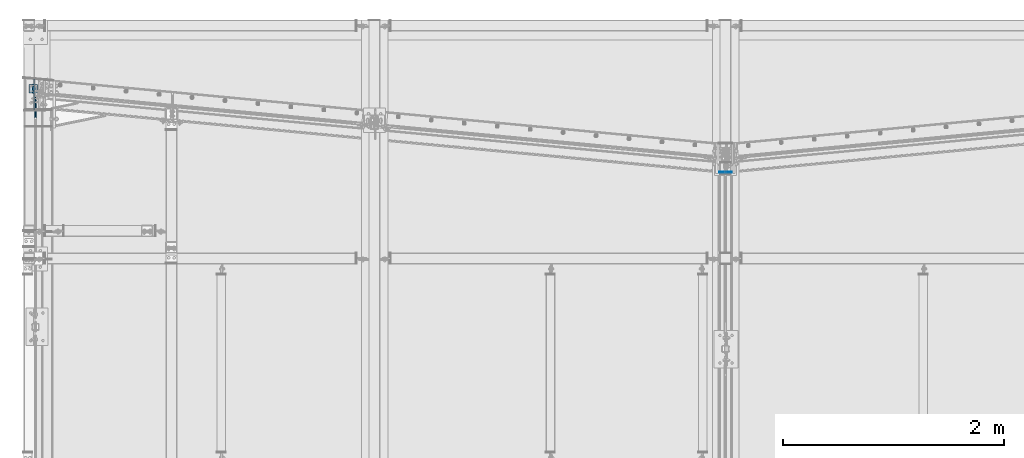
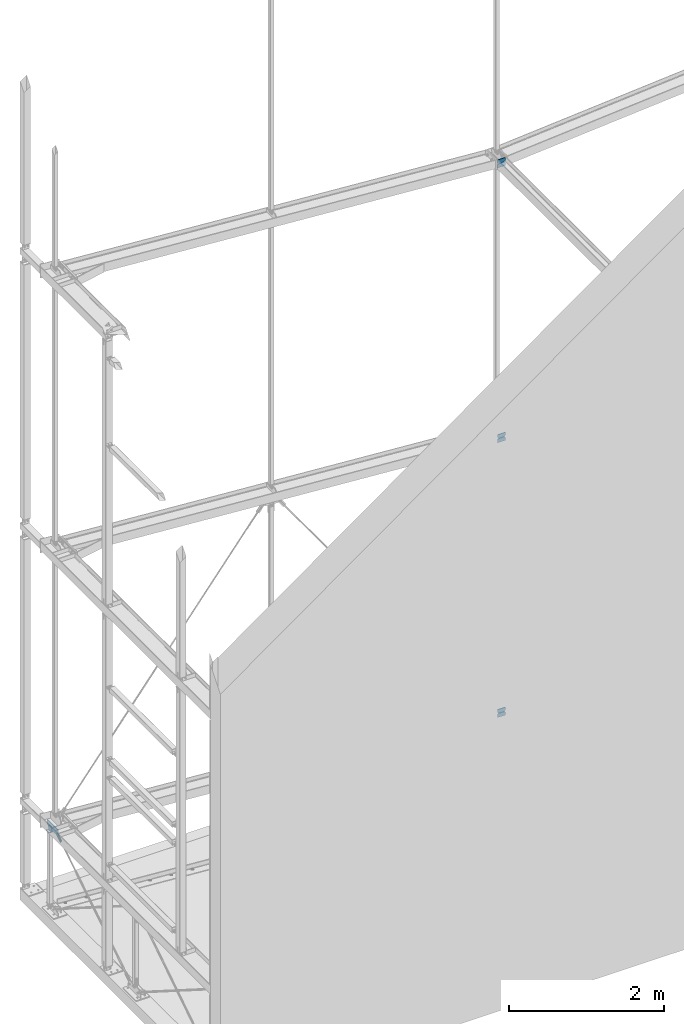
# One storey, part 136 of 271: 10 plates, 6 elements without a shape of their own.
"""IFC2X3 building model written with IfcOpenShell, lengths in millimetres."""

from ifc_helpers import new_model, si_unit, frame, origin_with_axes, place, context, subcontext, project, spatial, polyline, outline, extrude, material, type_object, element, aggregate, save


model = new_model("IFC2X3")

# Units and contexts
model_context = context("Model", 3, precision=1e-05, world=origin_with_axes())
body_context = subcontext(model_context, "Body", "Model", "MODEL_VIEW")
ifc_project = project(units=[si_unit("LENGTHUNIT", "METRE", prefix="MILLI"), si_unit("AREAUNIT", "SQUARE_METRE"), si_unit("VOLUMEUNIT", "CUBIC_METRE"), si_unit("MASSUNIT", "GRAM", prefix="KILO"), si_unit("TIMEUNIT", "SECOND"), si_unit("PLANEANGLEUNIT", "RADIAN"), si_unit("SOLIDANGLEUNIT", "STERADIAN"), si_unit("THERMODYNAMICTEMPERATUREUNIT", "DEGREE_CELSIUS"), si_unit("LUMINOUSINTENSITYUNIT", "LUMEN")], contexts=[model_context])

# Site, building, storey
site_placement = place(None, origin_with_axes())
site = spatial("IfcSite", under=ifc_project, at=site_placement, Name="Undefined", CompositionType="ELEMENT")
building_placement = place(site_placement, origin_with_axes())
building = spatial("IfcBuilding", under=site, at=building_placement, Name="Undefined", CompositionType="ELEMENT")
storey_placement = place(building_placement, origin_with_axes())
storey = spatial("IfcBuildingStorey", under=building, at=storey_placement, Name="Undefined", CompositionType="ELEMENT", Elevation=0.0)

# Assembly, plate
assembly_1_placement = place(storey_placement, origin_with_axes())
assembly_1 = element("IfcElementAssembly", 1, at=assembly_1_placement, inside=storey, AssemblyPlace="NOTDEFINED", PredefinedType="RIGID_FRAME")
ifc_material = material(Name="STEEL/S355JR")
plate_type_1 = type_object("IfcPlateType", Name="BL12*56", PredefinedType="NOTDEFINED")
plate_1_placement = place(assembly_1_placement, frame((98.9999999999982, 4256.58381154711, 1277.27503788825), z_axis=(1.0, 0.0, 0.0), x_axis=(0.0, 0.219920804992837, 0.975517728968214)))
plate_1 = element("IfcPlate", 2, at=plate_1_placement, type_object=plate_type_1, material=ifc_material, Name="BLACHA", ObjectType="BL12*56", context=body_context, shape_type="SweptSolid", body=[
    extrude(outline(polyline([(0.0, 0.0), (21.2132034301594, 1.09139364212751e-11), (39.5979804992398, 18.3847751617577), (39.5979804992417, 39.5979804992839), (-86.9741363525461, 166.170089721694), (-100.762718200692, 152.381515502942), (-30.0520401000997, 81.670829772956), (-42.0728530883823, 69.6500167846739), (-112.783531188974, 140.36070251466), (-126.57211303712, 126.57211303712), (0.0, 0.0)])), frame((0.0, 0.0, -6.0), z_axis=(0.0, 0.0, 1.0), x_axis=(1.0, 0.0, 0.0)), (0.0, 0.0, 1.0), 12.0),
])
aggregate(assembly_1, [plate_1])

assembly_2_placement = place(storey_placement, origin_with_axes())
assembly_2 = element("IfcElementAssembly", 3, at=assembly_2_placement, inside=storey, AssemblyPlace="NOTDEFINED", PredefinedType="RIGID_FRAME")
plate_type_2 = type_object("IfcPlateType", Name="BL10*70", PredefinedType="NOTDEFINED")
plate_2_placement = place(assembly_2_placement, frame((77.9999996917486, 4297.19355050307, 1296.04999995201), z_axis=(-1.0, 0.0, 1.38777878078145e-17), x_axis=(0.0, 0.707106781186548, 0.707106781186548)))
plate_2 = element("IfcPlate", 4, at=plate_2_placement, type_object=plate_type_2, material=ifc_material, Name="BLACHA", ObjectType="BL10*70", context=body_context, shape_type="SweptSolid", body=[
    extrude(outline(polyline([(0.0, 0.0), (21.2132034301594, 1.09139364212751e-11), (56.5685424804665, 35.3553390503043), (56.568542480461, 56.5685424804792), (17.6776695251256, 95.4594192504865), (-38.890872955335, 38.8908729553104), (0.0, 0.0)])), frame((0.0, 0.0, -5.0), z_axis=(0.0, 0.0, 1.0), x_axis=(1.0, 0.0, 0.0)), (0.0, 0.0, 1.0), 10.0),
])

assembly_3_placement = place(storey_placement, origin_with_axes())
assembly_3 = element("IfcElementAssembly", 5, at=assembly_3_placement, inside=storey, AssemblyPlace="NOTDEFINED", PredefinedType="RIGID_FRAME")
plate_type_3 = type_object("IfcPlateType", Name="BL10*100", PredefinedType="NOTDEFINED")
plate_3_placement = place(assembly_3_placement, frame((87.9999996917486, 4424.19355050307, 1360.69999980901), z_axis=(1.0, 0.0, 0.0), x_axis=(0.0, -1.0, 0.0)))
plate_3 = element("IfcPlate", 6, at=plate_3_placement, type_object=plate_type_3, material=ifc_material, Name="BLACHA", ObjectType="BL10*100", context=body_context, shape_type="SweptSolid", body=[
    extrude(outline(polyline([(0.0, 0.0), (280.0, 0.0), (280.0, 60.0), (200.0, 100.0), (40.0, 100.0), (0.0, 70.0), (0.0, 0.0)])), frame((0.0, 0.0, -5.0), z_axis=(0.0, 0.0, 1.0), x_axis=(1.0, 0.0, 0.0)), (0.0, 0.0, 1.0), 10.0),
])
aggregate(assembly_3, [plate_3])

# Plate
plate_type_4 = type_object("IfcPlateType", Name="BL8*80", PredefinedType="NOTDEFINED")
plate_4_placement = place(assembly_2_placement, frame((117.999999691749, 4297.19355050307, 1237.04999995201), z_axis=(0.0, 0.0, 1.0), x_axis=(0.0, 1.0, 0.0)))
plate_4 = element("IfcPlate", 7, at=plate_4_placement, type_object=plate_type_4, material=ifc_material, Name="BLACHA", ObjectType="BL8*80", context=body_context, shape_type="SweptSolid", body=[
    extrude(outline(polyline([(0.0, 0.0), (80.0, 0.0), (80.0, 80.0), (0.0, 80.0), (0.0, 0.0)])), frame((0.0, 0.0, -4.0), z_axis=(0.0, 0.0, 1.0), x_axis=(1.0, 0.0, 0.0)), (0.0, 0.0, 1.0), 8.0),
])

aggregate(assembly_2, [plate_4, plate_2])

# Assembly, plates
assembly_4_placement = place(storey_placement, origin_with_axes())
assembly_4 = element("IfcElementAssembly", 8, at=assembly_4_placement, inside=storey, AssemblyPlace="NOTDEFINED", PredefinedType="RIGID_FRAME")
plate_type_5 = type_object("IfcPlateType", Name="BL8*60", PredefinedType="NOTDEFINED")
plate_5_placement = place(assembly_4_placement, frame((6291.37568709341, 3579.5985668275, 5621.59999990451), z_axis=(0.0, 1.0, 0.0), x_axis=(0.0, 0.0, 1.0)))
plate_5 = element("IfcPlate", 9, at=plate_5_placement, type_object=plate_type_5, material=ifc_material, Name="BLACHA", ObjectType="BL8*60", context=body_context, shape_type="SweptSolid", body=[
    extrude(outline(polyline([(0.0, 0.0), (45.0, 0.0), (60.0, 15.0), (60.0, 99.0), (45.0, 114.0), (0.0, 114.0), (0.0, 0.0)])), frame((0.0, 0.0, -4.0), z_axis=(0.0, 0.0, 1.0), x_axis=(1.0, 0.0, 0.0)), (0.0, 0.0, 1.0), 8.0),
])
plate_6_placement = place(assembly_4_placement, frame((6291.37568709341, 3579.5985668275, 5747.09999990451), z_axis=(0.0, -1.0, 0.0), x_axis=(0.0, 0.0, -1.0)))
plate_6 = element("IfcPlate", 10, at=plate_6_placement, type_object=plate_type_5, material=ifc_material, Name="BLACHA", ObjectType="BL8*60", context=body_context, shape_type="SweptSolid", body=[
    extrude(outline(polyline([(0.0, 0.0), (45.0, 0.0), (60.0, 15.0), (60.0, 99.0), (45.0, 114.0), (0.0, 114.0), (0.0, 0.0)])), frame((0.0, 0.0, -4.0), z_axis=(0.0, 0.0, 1.0), x_axis=(1.0, 0.0, 0.0)), (0.0, 0.0, 1.0), 8.0),
])
aggregate(assembly_4, [plate_5, plate_6])

assembly_5_placement = place(storey_placement, origin_with_axes())
assembly_5 = element("IfcElementAssembly", 11, at=assembly_5_placement, inside=storey, AssemblyPlace="NOTDEFINED", PredefinedType="RIGID_FRAME")
plate_7_placement = place(assembly_5_placement, frame((6291.37568709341, 3579.5985668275, 1301.59999990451), z_axis=(0.0, 1.0, 0.0), x_axis=(0.0, 0.0, 1.0)))
plate_7 = element("IfcPlate", 12, at=plate_7_placement, type_object=plate_type_5, material=ifc_material, Name="BLACHA", ObjectType="BL8*60", context=body_context, shape_type="SweptSolid", body=[
    extrude(outline(polyline([(0.0, 0.0), (45.0, 0.0), (60.0, 15.0), (60.0, 99.0), (45.0, 114.0), (0.0, 114.0), (0.0, 0.0)])), frame((0.0, 0.0, -4.0), z_axis=(0.0, 0.0, 1.0), x_axis=(1.0, 0.0, 0.0)), (0.0, 0.0, 1.0), 8.0),
])
plate_8_placement = place(assembly_5_placement, frame((6291.37568709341, 3579.5985668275, 1427.09999990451), z_axis=(0.0, -1.0, 0.0), x_axis=(0.0, 0.0, -1.0)))
plate_8 = element("IfcPlate", 13, at=plate_8_placement, type_object=plate_type_5, material=ifc_material, Name="BLACHA", ObjectType="BL8*60", context=body_context, shape_type="SweptSolid", body=[
    extrude(outline(polyline([(0.0, 0.0), (45.0, 0.0), (60.0, 15.0), (60.0, 99.0), (45.0, 114.0), (0.0, 114.0), (0.0, 0.0)])), frame((0.0, 0.0, -4.0), z_axis=(0.0, 0.0, 1.0), x_axis=(1.0, 0.0, 0.0)), (0.0, 0.0, 1.0), 8.0),
])
aggregate(assembly_5, [plate_7, plate_8])

assembly_6_placement = place(storey_placement, origin_with_axes())
assembly_6 = element("IfcElementAssembly", 14, at=assembly_6_placement, inside=storey, AssemblyPlace="NOTDEFINED", PredefinedType="RIGID_FRAME")
plate_9_placement = place(assembly_6_placement, frame((6291.37568709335, 3579.59856682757, 9941.59999990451), z_axis=(0.0, 1.0, 0.0), x_axis=(0.0, 0.0, 1.0)))
plate_9 = element("IfcPlate", 15, at=plate_9_placement, type_object=plate_type_5, material=ifc_material, Name="BLACHA", ObjectType="BL8*60", context=body_context, shape_type="SweptSolid", body=[
    extrude(outline(polyline([(0.0, 0.0), (45.0, 0.0), (60.0, 15.0), (60.0, 99.0), (45.0, 114.0), (0.0, 114.0), (0.0, 0.0)])), frame((0.0, 0.0, -4.0), z_axis=(0.0, 0.0, 1.0), x_axis=(1.0, 0.0, 0.0)), (0.0, 0.0, 1.0), 8.0),
])
plate_10_placement = place(assembly_6_placement, frame((6291.37568709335, 3579.59856682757, 10067.0999999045), z_axis=(0.0, -1.0, 0.0), x_axis=(0.0, 0.0, -1.0)))
plate_10 = element("IfcPlate", 16, at=plate_10_placement, type_object=plate_type_5, material=ifc_material, Name="BLACHA", ObjectType="BL8*60", context=body_context, shape_type="SweptSolid", body=[
    extrude(outline(polyline([(0.0, 0.0), (45.0, 0.0), (60.0, 15.0), (60.0, 99.0), (45.0, 114.0), (0.0, 114.0), (0.0, 0.0)])), frame((0.0, 0.0, -4.0), z_axis=(0.0, 0.0, 1.0), x_axis=(1.0, 0.0, 0.0)), (0.0, 0.0, 1.0), 8.0),
])
aggregate(assembly_6, [plate_9, plate_10])

save(model, "model.ifc")
